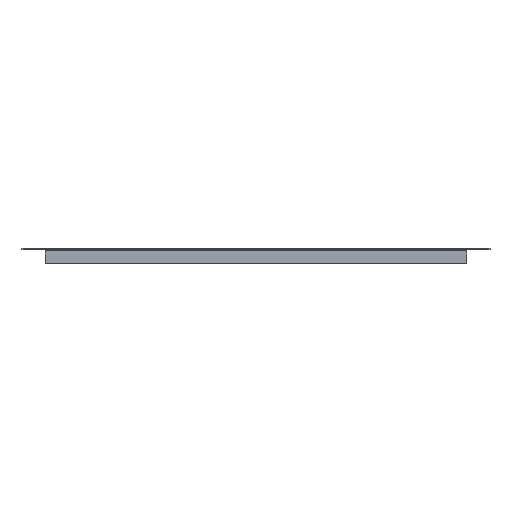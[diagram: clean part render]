
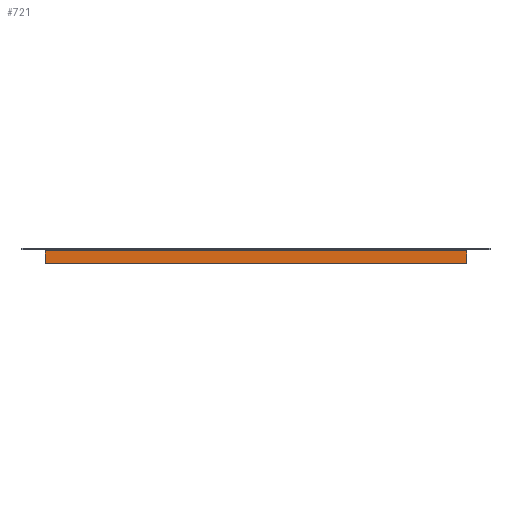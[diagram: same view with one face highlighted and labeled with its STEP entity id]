
A CAD part, front view. The second image highlights one B-rep face of the part: STEP entity #721.
In plain terms, the highlighted planar face has unit normal (0, -1, 0).
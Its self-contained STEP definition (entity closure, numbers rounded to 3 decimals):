
#120 = DIRECTION ( 'NONE',  ( 1., 0., 0. ) ) ;
#124 = CARTESIAN_POINT ( 'NONE',  ( 209.5, -299.5, -1.2 ) ) ;
#125 = CARTESIAN_POINT ( 'NONE',  ( 209.5, -299.5, 0. ) ) ;
#133 = CARTESIAN_POINT ( 'NONE',  ( 209.5, -299.5, -13.8 ) ) ;
#135 = DIRECTION ( 'NONE',  ( 0., 0., -1. ) ) ;
#138 = CARTESIAN_POINT ( 'NONE',  ( -209.5, -299.5, -13.8 ) ) ;
#140 = DIRECTION ( 'NONE',  ( 0., 0., 1. ) ) ;
#145 = DIRECTION ( 'NONE',  ( -1., 0., 0. ) ) ;
#208 = CARTESIAN_POINT ( 'NONE',  ( 209.5, -299.5, -13.8 ) ) ;
#211 = CARTESIAN_POINT ( 'NONE',  ( -209.5, -299.5, -1.2 ) ) ;
#214 = CARTESIAN_POINT ( 'NONE',  ( 209.5, -299.5, -1.2 ) ) ;
#229 = CARTESIAN_POINT ( 'NONE',  ( -209.5, -299.5, -13.8 ) ) ;
#418 = DIRECTION ( 'NONE',  ( 0., 0., 1. ) ) ;
#420 = DIRECTION ( 'NONE',  ( 0., 1., 0. ) ) ;
#433 = CARTESIAN_POINT ( 'NONE',  ( 209.5, -299.5, 0. ) ) ;
#435 = PLANE ( 'NONE',  #1672 ) ;
#721 = ADVANCED_FACE ( 'NONE', ( #1470 ), #435, .F. ) ;
#765 = VECTOR ( 'NONE', #140, 1000. ) ;
#782 = VERTEX_POINT ( 'NONE', #208 ) ;
#788 = LINE ( 'NONE', #133, #1106 ) ;
#805 = VERTEX_POINT ( 'NONE', #211 ) ;
#851 = VERTEX_POINT ( 'NONE', #214 ) ;
#857 = VECTOR ( 'NONE', #135, 1000. ) ;
#880 = LINE ( 'NONE', #138, #765 ) ;
#893 = EDGE_LOOP ( 'NONE', ( #1297, #1274, #1447, #1425 ) ) ;
#991 = VERTEX_POINT ( 'NONE', #229 ) ;
#1009 = LINE ( 'NONE', #124, #1039 ) ;
#1016 = LINE ( 'NONE', #125, #857 ) ;
#1039 = VECTOR ( 'NONE', #120, 1000. ) ;
#1106 = VECTOR ( 'NONE', #145, 1000. ) ;
#1274 = ORIENTED_EDGE ( 'NONE', *, *, #1556, .F. ) ;
#1297 = ORIENTED_EDGE ( 'NONE', *, *, #1551, .F. ) ;
#1425 = ORIENTED_EDGE ( 'NONE', *, *, #1554, .F. ) ;
#1447 = ORIENTED_EDGE ( 'NONE', *, *, #1559, .F. ) ;
#1470 = FACE_OUTER_BOUND ( 'NONE', #893, .T. ) ;
#1551 = EDGE_CURVE ( 'NONE', #805, #851, #1009, .T. ) ;
#1554 = EDGE_CURVE ( 'NONE', #851, #782, #1016, .T. ) ;
#1556 = EDGE_CURVE ( 'NONE', #991, #805, #880, .T. ) ;
#1559 = EDGE_CURVE ( 'NONE', #782, #991, #788, .T. ) ;
#1672 = AXIS2_PLACEMENT_3D ( 'NONE', #433, #420, #418 ) ;
